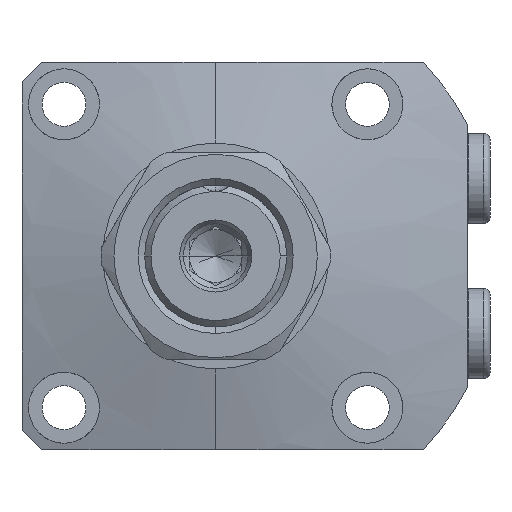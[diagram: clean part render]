
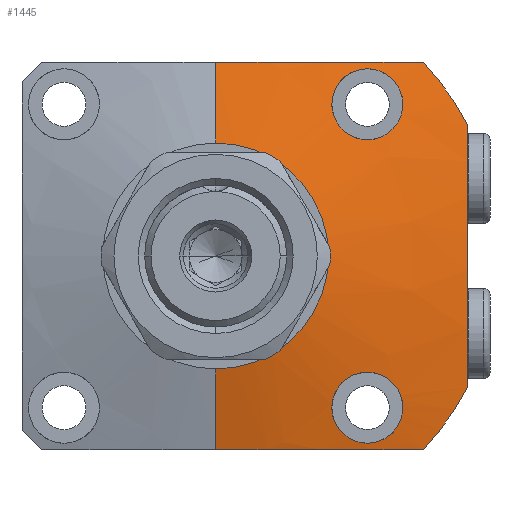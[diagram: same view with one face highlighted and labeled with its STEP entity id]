
A CAD part, left-side view. The second image highlights one B-rep face of the part: STEP entity #1445.
In plain terms, the highlighted conical face has half-angle 75 degrees and reference radius 17.5 mm.
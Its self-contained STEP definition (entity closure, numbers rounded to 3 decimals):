
#1038=FACE_BOUND('',#2054,.T.);
#1039=FACE_BOUND('',#2055,.T.);
#1040=FACE_BOUND('',#2056,.T.);
#1146=B_SPLINE_CURVE_WITH_KNOTS('',3,(#8207,#8208,#8209,#8210,#8211,#8212,
#8213,#8214,#8215,#8216),.UNSPECIFIED.,.F.,.F.,(4,2,2,2,4),(0.,0.25,0.5,
0.75,1.),.UNSPECIFIED.);
#1147=B_SPLINE_CURVE_WITH_KNOTS('',3,(#8225,#8226,#8227,#8228,#8229,#8230,
#8231,#8232,#8233,#8234),.UNSPECIFIED.,.F.,.F.,(4,2,2,2,4),(0.,0.25,0.5,
0.75,1.),.UNSPECIFIED.);
#1159=B_SPLINE_CURVE_WITH_KNOTS('',3,(#8635,#8636,#8637,#8638),
 .UNSPECIFIED.,.F.,.F.,(4,4),(0.,1.),.UNSPECIFIED.);
#1160=B_SPLINE_CURVE_WITH_KNOTS('',3,(#8639,#8640,#8641,#8642,#8643),
 .UNSPECIFIED.,.F.,.F.,(4,1,4),(0.,0.5,1.),.UNSPECIFIED.);
#1161=B_SPLINE_CURVE_WITH_KNOTS('',3,(#8644,#8645,#8646,#8647),
 .UNSPECIFIED.,.F.,.F.,(4,4),(0.,1.),.UNSPECIFIED.);
#1162=B_SPLINE_CURVE_WITH_KNOTS('',3,(#8648,#8649,#8650,#8651,#8652,#8653,
#8654,#8655,#8656,#8657),.UNSPECIFIED.,.F.,.F.,(4,2,2,2,4),(0.,0.25,0.5,
0.75,1.),.UNSPECIFIED.);
#1163=B_SPLINE_CURVE_WITH_KNOTS('',3,(#8658,#8659,#8660,#8661,#8662,#8663,
#8664,#8665,#8666,#8667),.UNSPECIFIED.,.F.,.F.,(4,2,2,2,4),(0.,0.25,0.5,
0.75,1.),.UNSPECIFIED.);
#1445=ADVANCED_FACE('',(#1038,#1039,#1040),#1588,.T.);
#1588=CONICAL_SURFACE('',#5629,17.5,75.);
#2054=EDGE_LOOP('',(#3398,#3399,#3400,#3401,#3402,#3403,#3404,#3405));
#2055=EDGE_LOOP('',(#3406,#3407));
#2056=EDGE_LOOP('',(#3408,#3409));
#2298=LINE('',#8304,#2526);
#2299=LINE('',#8333,#2527);
#2526=VECTOR('',#6499,1.);
#2527=VECTOR('',#6500,1.);
#3398=ORIENTED_EDGE('',*,*,#4598,.T.);
#3399=ORIENTED_EDGE('',*,*,#4722,.F.);
#3400=ORIENTED_EDGE('',*,*,#4604,.F.);
#3401=ORIENTED_EDGE('',*,*,#4723,.T.);
#3402=ORIENTED_EDGE('',*,*,#4690,.T.);
#3403=ORIENTED_EDGE('',*,*,#4724,.T.);
#3404=ORIENTED_EDGE('',*,*,#4720,.T.);
#3405=ORIENTED_EDGE('',*,*,#4725,.T.);
#3406=ORIENTED_EDGE('',*,*,#4726,.F.);
#3407=ORIENTED_EDGE('',*,*,#4573,.F.);
#3408=ORIENTED_EDGE('',*,*,#4727,.F.);
#3409=ORIENTED_EDGE('',*,*,#4577,.F.);
#4087=VERTEX_POINT('',#8206);
#4088=VERTEX_POINT('',#8217);
#4091=VERTEX_POINT('',#8224);
#4092=VERTEX_POINT('',#8235);
#4107=VERTEX_POINT('',#8302);
#4108=VERTEX_POINT('',#8303);
#4109=VERTEX_POINT('',#8305);
#4114=VERTEX_POINT('',#8332);
#4177=VERTEX_POINT('',#8533);
#4180=VERTEX_POINT('',#8538);
#4187=VERTEX_POINT('',#8629);
#4188=VERTEX_POINT('',#8631);
#4573=EDGE_CURVE('',#4087,#4088,#1146,.T.);
#4577=EDGE_CURVE('',#4091,#4092,#1147,.T.);
#4598=EDGE_CURVE('',#4109,#4107,#2298,.T.);
#4604=EDGE_CURVE('',#4114,#4108,#2299,.T.);
#4690=EDGE_CURVE('',#4177,#4180,#5115,.T.);
#4720=EDGE_CURVE('',#4188,#4187,#5137,.T.);
#4722=EDGE_CURVE('',#4108,#4107,#5138,.T.);
#4723=EDGE_CURVE('',#4114,#4177,#1159,.T.);
#4724=EDGE_CURVE('',#4180,#4188,#1160,.T.);
#4725=EDGE_CURVE('',#4187,#4109,#1161,.T.);
#4726=EDGE_CURVE('',#4088,#4087,#1162,.T.);
#4727=EDGE_CURVE('',#4092,#4091,#1163,.T.);
#5115=CIRCLE('',#5580,44.);
#5137=CIRCLE('',#5626,44.);
#5138=CIRCLE('',#5628,17.5);
#5580=AXIS2_PLACEMENT_3D('',#8539,#6687,#6688);
#5626=AXIS2_PLACEMENT_3D('',#8630,#6786,#6787);
#5628=AXIS2_PLACEMENT_3D('',#8634,#6791,#6792);
#5629=AXIS2_PLACEMENT_3D('',#8668,#6793,#6794);
#6499=DIRECTION('',(-0.259,0.,-0.966));
#6500=DIRECTION('',(-0.259,0.,0.966));
#6687=DIRECTION('',(-1.,0.,0.));
#6688=DIRECTION('',(0.,0.,1.));
#6786=DIRECTION('',(-1.,0.,0.));
#6787=DIRECTION('',(0.,0.,1.));
#6791=DIRECTION('',(-1.,0.,0.));
#6792=DIRECTION('',(0.,0.,1.));
#6793=DIRECTION('',(1.,0.,0.));
#6794=DIRECTION('',(0.,0.,1.));
#8206=CARTESIAN_POINT('',(-26.757,-23.5,18.));
#8207=CARTESIAN_POINT('',(-26.757,-23.5,18.));
#8208=CARTESIAN_POINT('',(-26.45,-24.946,18.));
#8209=CARTESIAN_POINT('',(-26.054,-26.334,18.579));
#8210=CARTESIAN_POINT('',(-25.305,-28.355,20.555));
#8211=CARTESIAN_POINT('',(-24.953,-28.972,21.961));
#8212=CARTESIAN_POINT('',(-24.458,-29.026,24.83));
#8213=CARTESIAN_POINT('',(-24.314,-28.455,26.301));
#8214=CARTESIAN_POINT('',(-24.307,-26.405,28.395));
#8215=CARTESIAN_POINT('',(-24.442,-24.958,29.));
#8216=CARTESIAN_POINT('',(-24.688,-23.5,29.));
#8217=CARTESIAN_POINT('',(-24.688,-23.5,29.));
#8224=CARTESIAN_POINT('',(-24.688,-23.5,-29.));
#8225=CARTESIAN_POINT('',(-24.688,-23.5,-29.));
#8226=CARTESIAN_POINT('',(-24.442,-24.957,-29.));
#8227=CARTESIAN_POINT('',(-24.307,-26.404,-28.393));
#8228=CARTESIAN_POINT('',(-24.314,-28.446,-26.313));
#8229=CARTESIAN_POINT('',(-24.456,-29.025,-24.846));
#8230=CARTESIAN_POINT('',(-24.952,-28.973,-21.959));
#8231=CARTESIAN_POINT('',(-25.304,-28.36,-20.559));
#8232=CARTESIAN_POINT('',(-26.055,-26.331,-18.576));
#8233=CARTESIAN_POINT('',(-26.45,-24.945,-18.));
#8234=CARTESIAN_POINT('',(-26.757,-23.5,-18.));
#8235=CARTESIAN_POINT('',(-26.757,-23.5,-18.));
#8302=CARTESIAN_POINT('',(-30.,0.,17.5));
#8303=CARTESIAN_POINT('',(-30.,0.,-17.5));
#8304=CARTESIAN_POINT('',(-30.,0.,17.5));
#8305=CARTESIAN_POINT('',(-26.651,0.,30.));
#8332=CARTESIAN_POINT('',(-26.651,0.,-30.));
#8333=CARTESIAN_POINT('',(-30.,0.,-17.5));
#8533=CARTESIAN_POINT('',(-22.899,-32.187,-30.));
#8538=CARTESIAN_POINT('',(-22.899,-39.,-20.372));
#8539=CARTESIAN_POINT('',(-22.899,0.,0.));
#8629=CARTESIAN_POINT('',(-22.899,-32.187,30.));
#8630=CARTESIAN_POINT('',(-22.899,0.,0.));
#8631=CARTESIAN_POINT('',(-22.899,-39.,20.372));
#8634=CARTESIAN_POINT('',(-30.,0.,0.));
#8635=CARTESIAN_POINT('',(-26.651,0.,-30.));
#8636=CARTESIAN_POINT('',(-26.651,-10.875,-30.));
#8637=CARTESIAN_POINT('',(-24.983,-21.555,-30.));
#8638=CARTESIAN_POINT('',(-22.899,-32.187,-30.));
#8639=CARTESIAN_POINT('',(-22.899,-39.,-20.372));
#8640=CARTESIAN_POINT('',(-23.742,-39.,-13.581));
#8641=CARTESIAN_POINT('',(-24.736,-39.,0.));
#8642=CARTESIAN_POINT('',(-23.742,-39.,13.581));
#8643=CARTESIAN_POINT('',(-22.899,-39.,20.372));
#8644=CARTESIAN_POINT('',(-22.899,-32.187,30.));
#8645=CARTESIAN_POINT('',(-24.983,-21.555,30.));
#8646=CARTESIAN_POINT('',(-26.651,-10.875,30.));
#8647=CARTESIAN_POINT('',(-26.651,0.,30.));
#8648=CARTESIAN_POINT('',(-24.688,-23.5,29.));
#8649=CARTESIAN_POINT('',(-24.934,-22.04,29.));
#8650=CARTESIAN_POINT('',(-25.282,-20.637,28.404));
#8651=CARTESIAN_POINT('',(-26.029,-18.626,26.414));
#8652=CARTESIAN_POINT('',(-26.431,-18.024,25.014));
#8653=CARTESIAN_POINT('',(-27.046,-17.978,22.164));
#8654=CARTESIAN_POINT('',(-27.253,-18.546,20.696));
#8655=CARTESIAN_POINT('',(-27.262,-20.603,18.599));
#8656=CARTESIAN_POINT('',(-27.065,-22.052,18.));
#8657=CARTESIAN_POINT('',(-26.757,-23.5,18.));
#8658=CARTESIAN_POINT('',(-26.757,-23.5,-18.));
#8659=CARTESIAN_POINT('',(-27.065,-22.052,-18.));
#8660=CARTESIAN_POINT('',(-27.261,-20.605,-18.601));
#8661=CARTESIAN_POINT('',(-27.254,-18.556,-20.682));
#8662=CARTESIAN_POINT('',(-27.049,-17.979,-22.146));
#8663=CARTESIAN_POINT('',(-26.43,-18.022,-25.02));
#8664=CARTESIAN_POINT('',(-26.03,-18.622,-26.411));
#8665=CARTESIAN_POINT('',(-25.28,-20.641,-28.408));
#8666=CARTESIAN_POINT('',(-24.934,-22.04,-29.));
#8667=CARTESIAN_POINT('',(-24.688,-23.5,-29.));
#8668=CARTESIAN_POINT('',(-30.,0.,0.));
